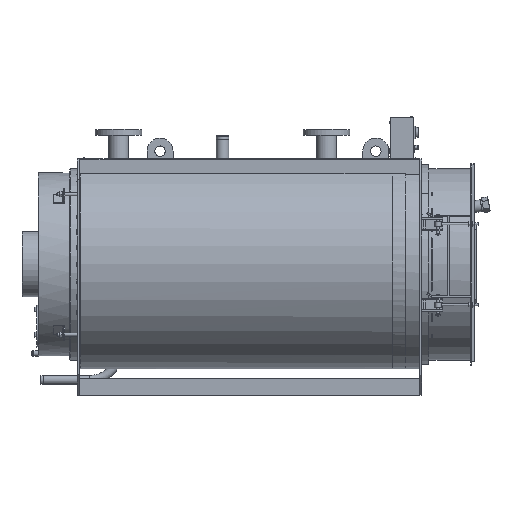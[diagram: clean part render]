
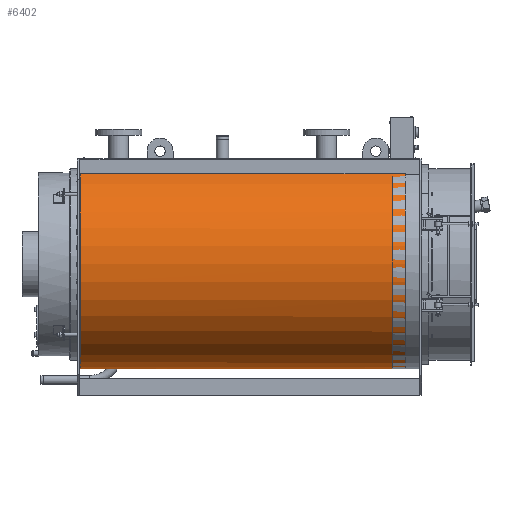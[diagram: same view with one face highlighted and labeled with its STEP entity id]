
A CAD part, front view. The second image highlights one B-rep face of the part: STEP entity #6402.
In plain terms, the highlighted cylindrical face has radius 401.7 mm (diameter 803.4 mm), a partial arc.
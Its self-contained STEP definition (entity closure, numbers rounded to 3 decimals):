
#6402=ADVANCED_FACE('',(#45828),#45830,.T.);
#45828=FACE_BOUND('',#45829,.T.);
#45829=EDGE_LOOP('',(#78932,#78933,#78934,#78935,#78936,#78937,#78938,#78939,#78940));
#45830=CYLINDRICAL_SURFACE('',#45831,401.7);
#45831=AXIS2_PLACEMENT_3D('',#45832,#45833,#45834);
#45832=CARTESIAN_POINT('',(-1313.,0.,0.));
#45833=DIRECTION('',(1.,0.,0.));
#45834=DIRECTION('',(0.,0.037,0.999));
#78932=ORIENTED_EDGE('',*,*,#91292,.F.);
#78933=ORIENTED_EDGE('',*,*,#91304,.T.);
#78934=ORIENTED_EDGE('',*,*,#91770,.T.);
#78935=ORIENTED_EDGE('',*,*,#91771,.T.);
#78936=ORIENTED_EDGE('',*,*,#91772,.T.);
#78937=ORIENTED_EDGE('',*,*,#91773,.T.);
#78938=ORIENTED_EDGE('',*,*,#91774,.T.);
#78939=ORIENTED_EDGE('',*,*,#91775,.F.);
#78940=ORIENTED_EDGE('',*,*,#91305,.T.);
#91292=EDGE_CURVE('',#99491,#99492,#99493,.T.);
#91304=EDGE_CURVE('',#99491,#99511,#99513,.T.);
#91305=EDGE_CURVE('',#99514,#99492,#99515,.F.);
#91770=EDGE_CURVE('',#99511,#100303,#100304,.F.);
#91771=EDGE_CURVE('',#100303,#100305,#100306,.F.);
#91772=EDGE_CURVE('',#100305,#100307,#100308,.F.);
#91773=EDGE_CURVE('',#100307,#100309,#100310,.F.);
#91774=EDGE_CURVE('',#100309,#100311,#100312,.F.);
#91775=EDGE_CURVE('',#99514,#100311,#100313,.T.);
#99491=VERTEX_POINT('',#119911);
#99492=VERTEX_POINT('',#119912);
#99493=LINE('',#119913,#119914);
#99511=VERTEX_POINT('',#119991);
#99513=CIRCLE('',#119995,401.7);
#99514=VERTEX_POINT('',#119999);
#99515=CIRCLE('',#120000,401.7);
#100303=VERTEX_POINT('',#126256);
#100304=LINE('',#126257,#126258);
#100305=VERTEX_POINT('',#126260);
#100306=B_SPLINE_CURVE_WITH_KNOTS('',3,
(#126261,#126262,#126263,#126264,#126265,#126266,#126267,#126268,#126269,#126270,
#126271,#126272,#126273,#126274),
.UNSPECIFIED.,.F.,.F.,
(4,1,1,1,1,1,1,1,1,1,1,4),
(0.,0.109,0.204,0.29,0.377,0.467,
0.555,0.644,0.733,0.821,0.91,
1.),
.UNSPECIFIED.);
#100307=VERTEX_POINT('',#126275);
#100308=B_SPLINE_CURVE_WITH_KNOTS('',3,
(#126276,#126277,#126278,#126279,#126280,#126281,#126282,#126283,#126284,#126285,
#126286,#126287,#126288,#126289),
.UNSPECIFIED.,.F.,.F.,
(4,1,1,1,1,1,1,1,1,1,1,4),
(0.,0.109,0.204,0.289,0.377,0.467,
0.555,0.645,0.734,0.821,0.91,
1.),
.UNSPECIFIED.);
#100309=VERTEX_POINT('',#126290);
#100310=LINE('',#126291,#126292);
#100311=VERTEX_POINT('',#126294);
#100312=B_SPLINE_CURVE_WITH_KNOTS('',3,
(#126295,#126296,#126297,#126298,#126299,#126300,#126301,#126302,#126303,#126304,
#126305,#126306,#126307,#126308,#126309,#126310,#126311),
.UNSPECIFIED.,.F.,.F.,
(4,1,1,1,1,1,1,1,1,1,1,1,1,1,4),
(0.,0.087,0.163,0.23,0.3,0.372,
0.442,0.513,0.584,0.655,0.726,
0.798,0.867,0.935,1.),
.UNSPECIFIED.);
#100313=LINE('',#126312,#126313);
#119911=CARTESIAN_POINT('',(-1313.,-200.,348.372));
#119912=CARTESIAN_POINT('',(-63.,-200.,348.372));
#119913=CARTESIAN_POINT('',(-1313.,-200.,348.372));
#119914=VECTOR('',#119915,1.);
#119915=DIRECTION('',(1.,0.,0.));
#119991=CARTESIAN_POINT('',(-1313.,-2.002,-401.695));
#119995=AXIS2_PLACEMENT_3D('',#119996,#119997,#119998);
#119996=CARTESIAN_POINT('',(-1313.,0.,0.));
#119997=DIRECTION('',(1.,0.,0.));
#119998=DIRECTION('',(0.,-0.498,0.867));
#119999=CARTESIAN_POINT('',(-63.,0.,-401.7));
#120000=AXIS2_PLACEMENT_3D('',#120001,#120002,#120003);
#120001=CARTESIAN_POINT('',(-63.,0.,0.));
#120002=DIRECTION('',(1.,0.,0.));
#120003=DIRECTION('',(0.,-0.498,0.867));
#126256=CARTESIAN_POINT('',(-1237.583,-2.002,-401.695));
#126257=CARTESIAN_POINT('',(-1237.583,-2.002,-401.695));
#126258=VECTOR('',#126259,1.);
#126259=DIRECTION('',(-1.,0.,0.));
#126260=CARTESIAN_POINT('',(-1226.055,-9.674,-401.583));
#126261=CARTESIAN_POINT('',(-1226.055,-9.674,-401.583));
#126262=CARTESIAN_POINT('',(-1226.262,-9.181,-401.595));
#126263=CARTESIAN_POINT('',(-1226.708,-8.283,-401.615));
#126264=CARTESIAN_POINT('',(-1227.487,-7.097,-401.638));
#126265=CARTESIAN_POINT('',(-1228.318,-6.083,-401.654));
#126266=CARTESIAN_POINT('',(-1229.228,-5.177,-401.667));
#126267=CARTESIAN_POINT('',(-1230.241,-4.359,-401.677));
#126268=CARTESIAN_POINT('',(-1231.341,-3.647,-401.684));
#126269=CARTESIAN_POINT('',(-1232.506,-3.055,-401.688));
#126270=CARTESIAN_POINT('',(-1233.72,-2.591,-401.692));
#126271=CARTESIAN_POINT('',(-1234.976,-2.254,-401.694));
#126272=CARTESIAN_POINT('',(-1236.265,-2.048,-401.695));
#126273=CARTESIAN_POINT('',(-1237.142,-2.002,-401.695));
#126274=CARTESIAN_POINT('',(-1237.583,-2.002,-401.695));
#126275=CARTESIAN_POINT('',(-1203.,-25.006,-400.921));
#126276=CARTESIAN_POINT('',(-1203.,-25.006,-400.921));
#126277=CARTESIAN_POINT('',(-1204.068,-25.006,-400.921));
#126278=CARTESIAN_POINT('',(-1206.067,-24.877,-400.929));
#126279=CARTESIAN_POINT('',(-1208.855,-24.359,-400.961));
#126280=CARTESIAN_POINT('',(-1211.366,-23.611,-401.006));
#126281=CARTESIAN_POINT('',(-1213.741,-22.633,-401.062));
#126282=CARTESIAN_POINT('',(-1216.034,-21.396,-401.131));
#126283=CARTESIAN_POINT('',(-1218.199,-19.916,-401.207));
#126284=CARTESIAN_POINT('',(-1220.193,-18.222,-401.288));
#126285=CARTESIAN_POINT('',(-1221.991,-16.337,-401.369));
#126286=CARTESIAN_POINT('',(-1223.582,-14.278,-401.448));
#126287=CARTESIAN_POINT('',(-1224.955,-12.062,-401.521));
#126288=CARTESIAN_POINT('',(-1225.716,-10.485,-401.564));
#126289=CARTESIAN_POINT('',(-1226.055,-9.674,-401.583));
#126290=CARTESIAN_POINT('',(-1178.,-25.006,-400.921));
#126291=CARTESIAN_POINT('',(-1178.,-25.006,-400.921));
#126292=VECTOR('',#126293,1.);
#126293=DIRECTION('',(-1.,0.,0.));
#126294=CARTESIAN_POINT('',(-1153.,0.,-401.7));
#126295=CARTESIAN_POINT('',(-1153.,0.,-401.7));
#126296=CARTESIAN_POINT('',(-1153.,-1.138,-401.7));
#126297=CARTESIAN_POINT('',(-1153.146,-3.27,-401.691));
#126298=CARTESIAN_POINT('',(-1153.734,-6.235,-401.655));
#126299=CARTESIAN_POINT('',(-1154.582,-8.897,-401.604));
#126300=CARTESIAN_POINT('',(-1155.69,-11.402,-401.541));
#126301=CARTESIAN_POINT('',(-1157.088,-13.804,-401.465));
#126302=CARTESIAN_POINT('',(-1158.758,-16.051,-401.381));
#126303=CARTESIAN_POINT('',(-1160.66,-18.091,-401.294));
#126304=CARTESIAN_POINT('',(-1162.781,-19.909,-401.208));
#126305=CARTESIAN_POINT('',(-1165.091,-21.478,-401.126));
#126306=CARTESIAN_POINT('',(-1167.564,-22.782,-401.054));
#126307=CARTESIAN_POINT('',(-1170.15,-23.796,-400.995));
#126308=CARTESIAN_POINT('',(-1172.789,-24.507,-400.952));
#126309=CARTESIAN_POINT('',(-1175.41,-24.917,-400.927));
#126310=CARTESIAN_POINT('',(-1177.147,-25.006,-400.921));
#126311=CARTESIAN_POINT('',(-1178.,-25.006,-400.921));
#126312=CARTESIAN_POINT('',(-63.,0.,-401.7));
#126313=VECTOR('',#126314,1.);
#126314=DIRECTION('',(-1.,0.,0.));
